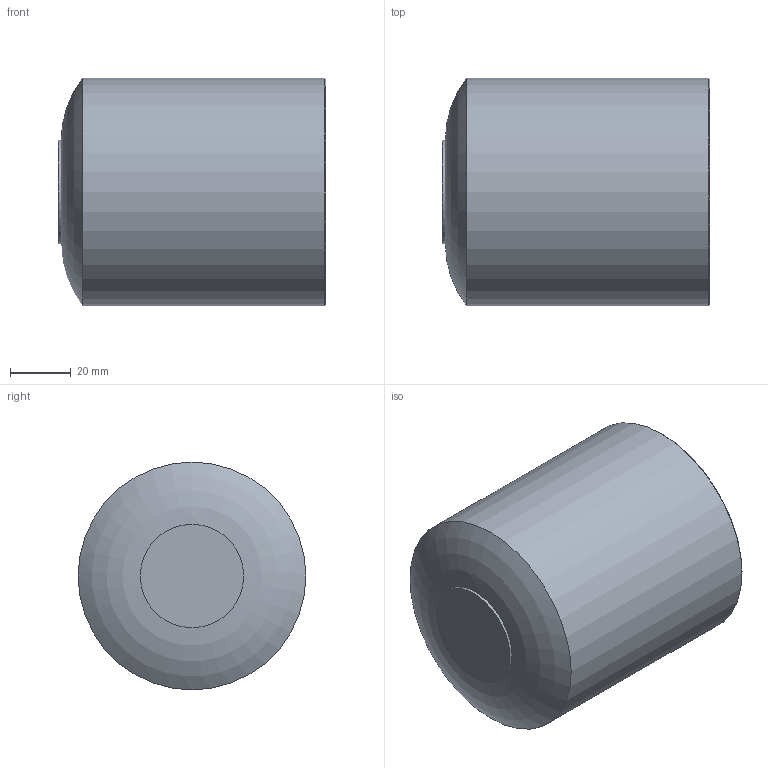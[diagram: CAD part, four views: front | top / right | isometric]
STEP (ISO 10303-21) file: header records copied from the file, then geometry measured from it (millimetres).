
FILE_DESCRIPTION(/* description */ ('Unknown'),/* implementation_level */ '2;1');
FILE_NAME(/* name */ 'CAP075C',/* time_stamp */ '2021-02-04T09:19:23+01:00',/* author */ ('Unknown'),/* organization */ ('Unknown'),/* preprocessor_version */ 'ST-DEVELOPER v16.7',/* originating_system */ 'Solid Edge',/* authorisation */ 'Unknown');
FILE_SCHEMA (('AUTOMOTIVE_DESIGN {1 0 10303 214 3 1 1}'));
Length unit declared in the file: millimetre
Products named in the file (1): CAP075C
Bounding box: 88 x 75 x 75 mm (x, y, z)
Volume: 142881.5 mm3; surface area: 42602.2 mm2
Topology: 1 solids, 1 shells, 9 faces, 15 edges, 9 vertices
Faces by surface type: plane 3, cylinder 3, torus 2, cone 1
Full cylindrical faces by diameter (mm): 34 x1, 61.4 x1, 75 x1
Entity records: 204 total; most frequent: DIRECTION 36, CARTESIAN_POINT 26, AXIS2_PLACEMENT_3D 18, ORIENTED_EDGE 16, EDGE_LOOP 16, FACE_BOUND 16, ADVANCED_FACE 9, EDGE_CURVE 8
